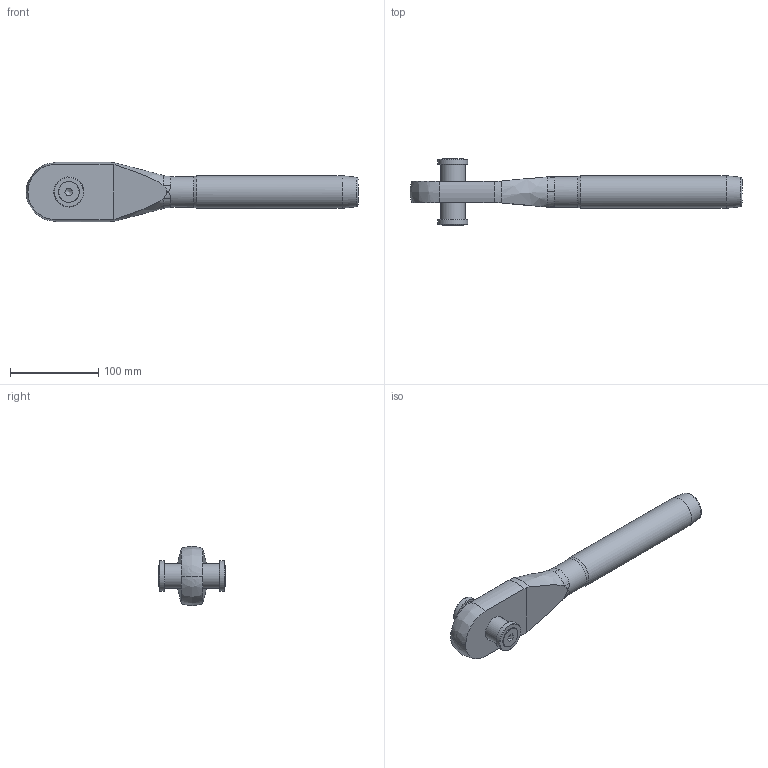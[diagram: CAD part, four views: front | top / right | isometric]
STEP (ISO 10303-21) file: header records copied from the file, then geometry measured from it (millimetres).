
FILE_DESCRIPTION(/* description */ (''),/* implementation_level */ '2;1');
FILE_NAME(/* name */ 'MCC 20_42CrMo4',/* time_stamp */ '2023-05-23T15:41:01+02:00',/* author */ (''),/* organization */ (''),/* preprocessor_version */ 'ST-DEVELOPER v16.5',/* originating_system */ 'Rhino 7.22',/* authorisation */ '');
FILE_SCHEMA (('CONFIG_CONTROL_DESIGN'));
Length unit declared in the file: millimetre
Products named in the file (1): Document
Bounding box: 375.5 x 75.41 x 66.93 mm (x, y, z)
Volume: 482756.9 mm3; surface area: 68109.3 mm2
Topology: 6 solids, 6 shells, 74 faces, 203 edges, 135 vertices
Faces by surface type: bspline 31, plane 27, cylinder 16
Full cylindrical faces by diameter (mm): 10.106 x2, 12 x2, 12.5 x2, 23.12 x2, 28 x1, 30 x1, 34 x2, 35 x1, 36.8 x1
Entity records: 3255 total; most frequent: CARTESIAN_POINT 2000, ORIENTED_EDGE 386, EDGE_CURVE 193, VERTEX_POINT 135, EDGE_LOOP 84, ADVANCED_FACE 74, FACE_OUTER_BOUND 74, B_SPLINE_CURVE_WITH_KNOTS 64
